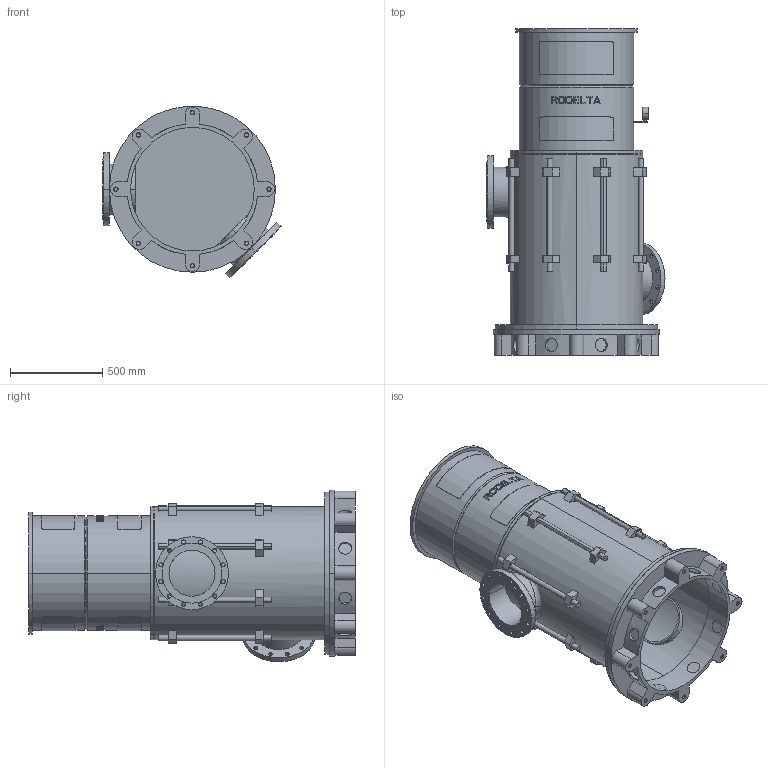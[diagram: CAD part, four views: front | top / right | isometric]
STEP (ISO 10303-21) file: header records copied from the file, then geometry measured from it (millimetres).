
FILE_DESCRIPTION((''),'2;1');
FILE_NAME('LS10_1TR_0GR','2025-10-20T10:56:59',('Lyritlocal'),(''),'CREO PARAMETRIC BY PTC INC, 2022014','CREO PARAMETRIC BY PTC INC, 2022014','');
FILE_SCHEMA(('CONFIG_CONTROL_DESIGN'));
Length unit declared in the file: millimetre
Products named in the file (1): LS10_1TR_0GR
Bounding box: 965.48 x 1770 x 930.48 mm (x, y, z)
Volume: 82857063.3 mm3; surface area: 11020491.2 mm2
Topology: 3 solids, 11 shells, 752 faces, 1934 edges, 1288 vertices
Faces by surface type: plane 462, cylinder 274, cone 12, bspline 4
Entity records: 24366 total; most frequent: CARTESIAN_POINT 6020, ORIENTED_EDGE 3836, DIRECTION 3662, EDGE_CURVE 1934, AXIS2_PLACEMENT_3D 1381, VERTEX_POINT 1288, EDGE_LOOP 924, VECTOR 900
